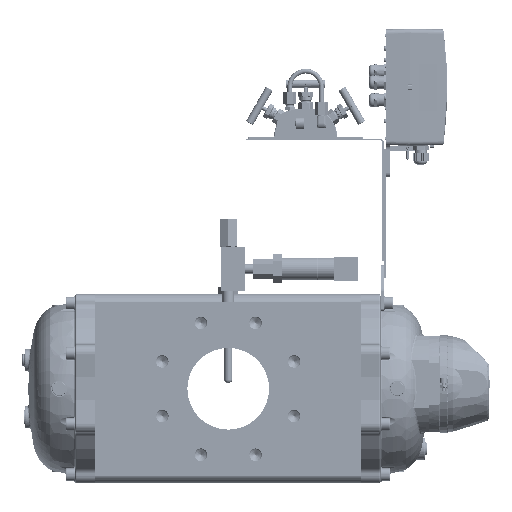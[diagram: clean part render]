
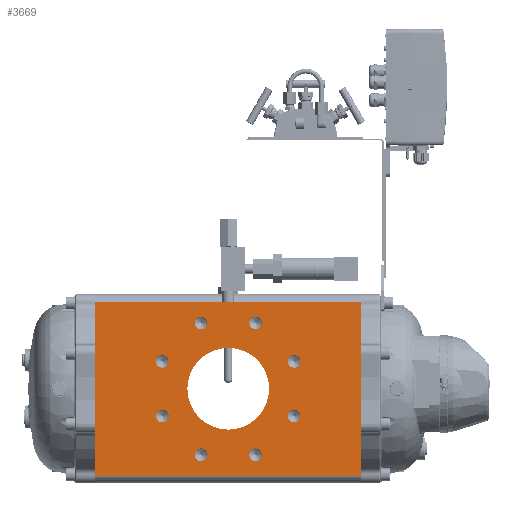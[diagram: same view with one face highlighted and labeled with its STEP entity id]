
A CAD part, front view. The second image highlights one B-rep face of the part: STEP entity #3669.
In plain terms, the highlighted planar face has unit normal (0, -1, 0).
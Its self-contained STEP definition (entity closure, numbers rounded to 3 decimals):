
#3669=ADVANCED_FACE('',(#286344,#286346,#286348,#286350,#286352,#286354,#286356,
#286358,#286360,#286362),#286364,.T.);
#286344=FACE_BOUND('',#286345,.T.);
#286345=EDGE_LOOP('',(#563756,#563757,#563758,#563759));
#286346=FACE_BOUND('',#286347,.T.);
#286347=EDGE_LOOP('',(#563760));
#286348=FACE_BOUND('',#286349,.T.);
#286349=EDGE_LOOP('',(#563761));
#286350=FACE_BOUND('',#286351,.T.);
#286351=EDGE_LOOP('',(#563762));
#286352=FACE_BOUND('',#286353,.T.);
#286353=EDGE_LOOP('',(#563763));
#286354=FACE_BOUND('',#286355,.T.);
#286355=EDGE_LOOP('',(#563764));
#286356=FACE_BOUND('',#286357,.T.);
#286357=EDGE_LOOP('',(#563765));
#286358=FACE_BOUND('',#286359,.T.);
#286359=EDGE_LOOP('',(#563766));
#286360=FACE_BOUND('',#286361,.T.);
#286361=EDGE_LOOP('',(#563767));
#286362=FACE_BOUND('',#286363,.T.);
#286363=EDGE_LOOP('',(#563768));
#286364=PLANE('',#286365);
#286365=AXIS2_PLACEMENT_3D('',#286366,#286367,#286368);
#286366=CARTESIAN_POINT('',(-336.,-120.5,110.));
#286367=DIRECTION('',(0.,-1.,0.));
#286368=DIRECTION('',(0.,0.,-1.));
#563756=ORIENTED_EDGE('',*,*,#776205,.T.);
#563757=ORIENTED_EDGE('',*,*,#776256,.T.);
#563758=ORIENTED_EDGE('',*,*,#776167,.T.);
#563759=ORIENTED_EDGE('',*,*,#776255,.F.);
#563760=ORIENTED_EDGE('',*,*,#776257,.T.);
#563761=ORIENTED_EDGE('',*,*,#776258,.T.);
#563762=ORIENTED_EDGE('',*,*,#776259,.T.);
#563763=ORIENTED_EDGE('',*,*,#776260,.T.);
#563764=ORIENTED_EDGE('',*,*,#776261,.T.);
#563765=ORIENTED_EDGE('',*,*,#776262,.T.);
#563766=ORIENTED_EDGE('',*,*,#776263,.T.);
#563767=ORIENTED_EDGE('',*,*,#776264,.T.);
#563768=ORIENTED_EDGE('',*,*,#776265,.T.);
#776167=EDGE_CURVE('',#865945,#865943,#865946,.T.);
#776205=EDGE_CURVE('',#866020,#866018,#866021,.T.);
#776255=EDGE_CURVE('',#866020,#865943,#866103,.T.);
#776256=EDGE_CURVE('',#866018,#865945,#866104,.T.);
#776257=EDGE_CURVE('',#866105,#866105,#866106,.T.);
#776258=EDGE_CURVE('',#866107,#866107,#866108,.T.);
#776259=EDGE_CURVE('',#866109,#866109,#866110,.T.);
#776260=EDGE_CURVE('',#866111,#866111,#866112,.T.);
#776261=EDGE_CURVE('',#866113,#866113,#866114,.T.);
#776262=EDGE_CURVE('',#866115,#866115,#866116,.T.);
#776263=EDGE_CURVE('',#866117,#866117,#866118,.T.);
#776264=EDGE_CURVE('',#866119,#866119,#866120,.T.);
#776265=EDGE_CURVE('',#866121,#866121,#866122,.T.);
#865943=VERTEX_POINT('',#1020034);
#865945=VERTEX_POINT('',#1020038);
#865946=LINE('',#1020039,#1020040);
#866018=VERTEX_POINT('',#1020211);
#866020=VERTEX_POINT('',#1020215);
#866021=LINE('',#1020216,#1020217);
#866103=LINE('',#1020532,#1020533);
#866104=LINE('',#1020535,#1020536);
#866105=VERTEX_POINT('',#1020538);
#866106=CIRCLE('',#1020539,7.917);
#866107=VERTEX_POINT('',#1020543);
#866108=CIRCLE('',#1020544,7.917);
#866109=VERTEX_POINT('',#1020548);
#866110=CIRCLE('',#1020549,7.917);
#866111=VERTEX_POINT('',#1020553);
#866112=CIRCLE('',#1020554,7.917);
#866113=VERTEX_POINT('',#1020558);
#866114=CIRCLE('',#1020559,7.917);
#866115=VERTEX_POINT('',#1020563);
#866116=CIRCLE('',#1020564,7.917);
#866117=VERTEX_POINT('',#1020568);
#866118=CIRCLE('',#1020569,7.917);
#866119=VERTEX_POINT('',#1020573);
#866120=CIRCLE('',#1020574,51.5);
#866121=VERTEX_POINT('',#1020578);
#866122=CIRCLE('',#1020579,7.917);
#1020034=CARTESIAN_POINT('',(0.,-120.5,110.));
#1020038=CARTESIAN_POINT('',(0.,-120.5,-110.));
#1020039=CARTESIAN_POINT('',(0.,-120.5,-110.));
#1020040=VECTOR('',#1020041,1.);
#1020041=DIRECTION('',(0.,0.,1.));
#1020211=CARTESIAN_POINT('',(-336.,-120.5,-110.));
#1020215=CARTESIAN_POINT('',(-336.,-120.5,110.));
#1020216=CARTESIAN_POINT('',(-336.,-120.5,110.));
#1020217=VECTOR('',#1020218,1.);
#1020218=DIRECTION('',(0.,0.,-1.));
#1020532=CARTESIAN_POINT('',(-336.,-120.5,110.));
#1020533=VECTOR('',#1020534,1.);
#1020534=DIRECTION('',(1.,0.,0.));
#1020535=CARTESIAN_POINT('',(-336.,-120.5,-110.));
#1020536=VECTOR('',#1020537,1.);
#1020537=DIRECTION('',(1.,0.,0.));
#1020538=CARTESIAN_POINT('',(-194.524,-120.5,83.149));
#1020539=AXIS2_PLACEMENT_3D('',#1020540,#1020541,#1020542);
#1020540=CARTESIAN_POINT('',(-202.442,-120.5,83.149));
#1020541=DIRECTION('',(0.,1.,0.));
#1020542=DIRECTION('',(1.,0.,0.));
#1020543=CARTESIAN_POINT('',(-243.232,-120.5,34.442));
#1020544=AXIS2_PLACEMENT_3D('',#1020545,#1020546,#1020547);
#1020545=CARTESIAN_POINT('',(-251.149,-120.5,34.442));
#1020546=DIRECTION('',(0.,1.,0.));
#1020547=DIRECTION('',(1.,0.,0.));
#1020548=CARTESIAN_POINT('',(-76.933,-120.5,34.442));
#1020549=AXIS2_PLACEMENT_3D('',#1020550,#1020551,#1020552);
#1020550=CARTESIAN_POINT('',(-84.851,-120.5,34.442));
#1020551=DIRECTION('',(0.,1.,0.));
#1020552=DIRECTION('',(1.,0.,0.));
#1020553=CARTESIAN_POINT('',(-76.933,-120.5,-34.442));
#1020554=AXIS2_PLACEMENT_3D('',#1020555,#1020556,#1020557);
#1020555=CARTESIAN_POINT('',(-84.851,-120.5,-34.442));
#1020556=DIRECTION('',(0.,1.,0.));
#1020557=DIRECTION('',(1.,0.,0.));
#1020558=CARTESIAN_POINT('',(-125.641,-120.5,-83.149));
#1020559=AXIS2_PLACEMENT_3D('',#1020560,#1020561,#1020562);
#1020560=CARTESIAN_POINT('',(-133.558,-120.5,-83.149));
#1020561=DIRECTION('',(0.,1.,0.));
#1020562=DIRECTION('',(1.,0.,0.));
#1020563=CARTESIAN_POINT('',(-194.524,-120.5,-83.149));
#1020564=AXIS2_PLACEMENT_3D('',#1020565,#1020566,#1020567);
#1020565=CARTESIAN_POINT('',(-202.442,-120.5,-83.149));
#1020566=DIRECTION('',(0.,1.,0.));
#1020567=DIRECTION('',(1.,0.,0.));
#1020568=CARTESIAN_POINT('',(-243.232,-120.5,-34.442));
#1020569=AXIS2_PLACEMENT_3D('',#1020570,#1020571,#1020572);
#1020570=CARTESIAN_POINT('',(-251.149,-120.5,-34.442));
#1020571=DIRECTION('',(0.,1.,0.));
#1020572=DIRECTION('',(1.,0.,0.));
#1020573=CARTESIAN_POINT('',(-219.5,-120.5,0.));
#1020574=AXIS2_PLACEMENT_3D('',#1020575,#1020576,#1020577);
#1020575=CARTESIAN_POINT('',(-168.,-120.5,0.));
#1020576=DIRECTION('',(0.,1.,0.));
#1020577=DIRECTION('',(-1.,0.,0.));
#1020578=CARTESIAN_POINT('',(-125.641,-120.5,83.149));
#1020579=AXIS2_PLACEMENT_3D('',#1020580,#1020581,#1020582);
#1020580=CARTESIAN_POINT('',(-133.558,-120.5,83.149));
#1020581=DIRECTION('',(0.,1.,0.));
#1020582=DIRECTION('',(1.,0.,0.));
